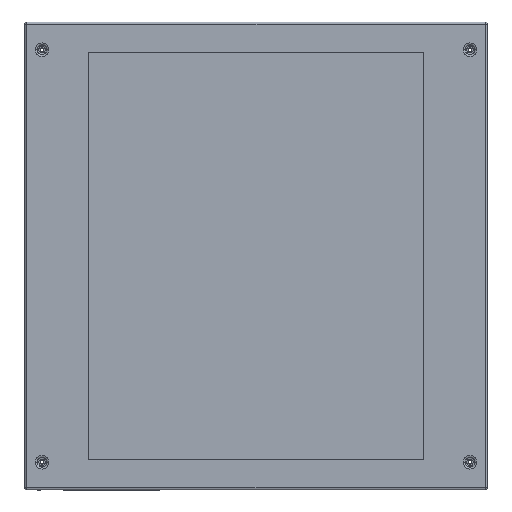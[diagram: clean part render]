
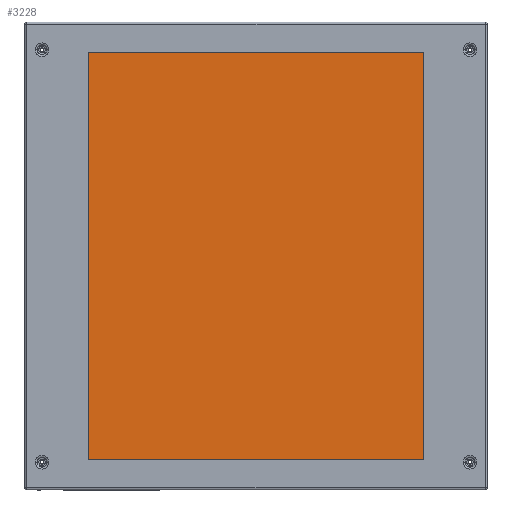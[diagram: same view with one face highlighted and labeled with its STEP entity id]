
A CAD part, top view. The second image highlights one B-rep face of the part: STEP entity #3228.
In plain terms, the highlighted planar face has unit normal (0, 0, 1).
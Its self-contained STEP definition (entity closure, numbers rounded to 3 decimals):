
#638 = DIRECTION ( 'NONE',  ( -1., 0., 0. ) ) ;
#639 = DIRECTION ( 'NONE',  ( 0., 0., -1. ) ) ;
#640 = CARTESIAN_POINT ( 'NONE',  ( 0., 0., -2. ) ) ;
#641 = PLANE ( 'NONE',  #2097 ) ;
#705 = VECTOR ( 'NONE', #3524, 1000. ) ;
#730 = VECTOR ( 'NONE', #4156, 1000. ) ;
#1007 = VECTOR ( 'NONE', #4090, 1000. ) ;
#1501 = EDGE_CURVE ( 'NONE', #2935, #2932, #4158, .T. ) ;
#1523 = EDGE_CURVE ( 'NONE', #2940, #2935, #4092, .T. ) ;
#1914 = FACE_OUTER_BOUND ( 'NONE', #4824, .T. ) ;
#2055 = VECTOR ( 'NONE', #3475, 1000. ) ;
#2097 = AXIS2_PLACEMENT_3D ( 'NONE', #640, #639, #638 ) ;
#2397 = ORIENTED_EDGE ( 'NONE', *, *, #1523, .F. ) ;
#2644 = ORIENTED_EDGE ( 'NONE', *, *, #3138, .F. ) ;
#2682 = ORIENTED_EDGE ( 'NONE', *, *, #1501, .F. ) ;
#2729 = ORIENTED_EDGE ( 'NONE', *, *, #3163, .F. ) ;
#2932 = VERTEX_POINT ( 'NONE', #3754 ) ;
#2935 = VERTEX_POINT ( 'NONE', #3742 ) ;
#2938 = VERTEX_POINT ( 'NONE', #3739 ) ;
#2940 = VERTEX_POINT ( 'NONE', #3737 ) ;
#3138 = EDGE_CURVE ( 'NONE', #2932, #2938, #3526, .T. ) ;
#3163 = EDGE_CURVE ( 'NONE', #2938, #2940, #3477, .T. ) ;
#3228 = ADVANCED_FACE ( 'NONE', ( #1914 ), #641, .F. ) ;
#3475 = DIRECTION ( 'NONE',  ( 0., 1., 0. ) ) ;
#3476 = CARTESIAN_POINT ( 'NONE',  ( -285., 344.5, -2. ) ) ;
#3477 = LINE ( 'NONE', #3476, #2055 ) ;
#3524 = DIRECTION ( 'NONE',  ( -1., 0., 0. ) ) ;
#3525 = CARTESIAN_POINT ( 'NONE',  ( 285., -344.5, -2. ) ) ;
#3526 = LINE ( 'NONE', #3525, #705 ) ;
#3737 = CARTESIAN_POINT ( 'NONE',  ( -285., 344.5, -2. ) ) ;
#3739 = CARTESIAN_POINT ( 'NONE',  ( -285., -344.5, -2. ) ) ;
#3742 = CARTESIAN_POINT ( 'NONE',  ( 285., 344.5, -2. ) ) ;
#3754 = CARTESIAN_POINT ( 'NONE',  ( 285., -344.5, -2. ) ) ;
#4090 = DIRECTION ( 'NONE',  ( 1., 0., 0. ) ) ;
#4091 = CARTESIAN_POINT ( 'NONE',  ( 285., 344.5, -2. ) ) ;
#4092 = LINE ( 'NONE', #4091, #1007 ) ;
#4156 = DIRECTION ( 'NONE',  ( 0., -1., 0. ) ) ;
#4157 = CARTESIAN_POINT ( 'NONE',  ( 285., 344.5, -2. ) ) ;
#4158 = LINE ( 'NONE', #4157, #730 ) ;
#4824 = EDGE_LOOP ( 'NONE', ( #2397, #2729, #2644, #2682 ) ) ;
